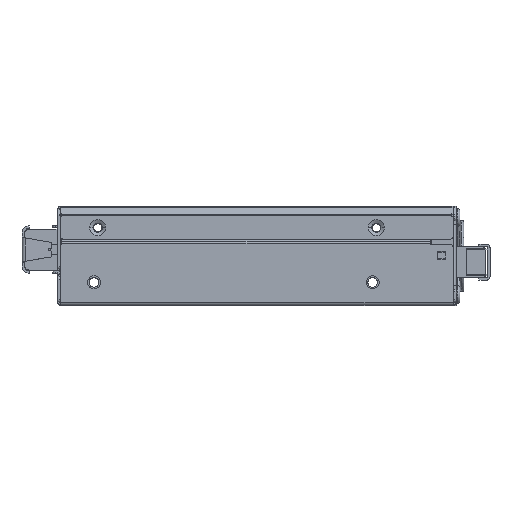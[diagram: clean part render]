
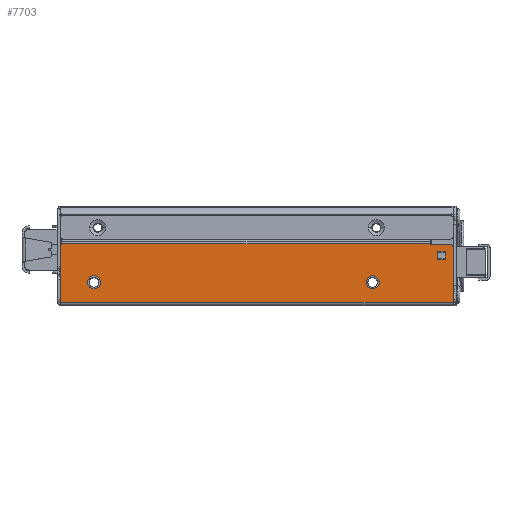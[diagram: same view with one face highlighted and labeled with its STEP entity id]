
A CAD part, top view. The second image highlights one B-rep face of the part: STEP entity #7703.
In plain terms, the highlighted planar face has unit normal (0, 0, 1).
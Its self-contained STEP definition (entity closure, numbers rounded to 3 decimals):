
#1272=DIRECTION('',(0.,1.,0.));
#1273=VECTOR('',#1272,17.703);
#1274=CARTESIAN_POINT('',(80.85,5.3,42.6));
#1275=LINE('',#1274,#1273);
#1284=CARTESIAN_POINT('',(79.85,23.003,42.6));
#1285=DIRECTION('',(0.,0.,-1.));
#1286=DIRECTION('',(0.,1.,0.));
#1287=AXIS2_PLACEMENT_3D('',#1284,#1285,#1286);
#1289=DIRECTION('',(0.,-1.,0.));
#1290=VECTOR('',#1289,5.3);
#1291=CARTESIAN_POINT('',(80.85,5.3,42.6));
#1292=LINE('',#1291,#1290);
#1293=DIRECTION('',(0.,1.,0.));
#1294=VECTOR('',#1293,10.6);
#1295=CARTESIAN_POINT('',(-82.05,0.,42.6));
#1296=LINE('',#1295,#1294);
#1297=DIRECTION('',(0.,1.,0.));
#1298=VECTOR('',#1297,10.803);
#1299=CARTESIAN_POINT('',(-82.05,13.2,42.6));
#1300=LINE('',#1299,#1298);
#1301=DIRECTION('',(1.,0.,0.));
#1302=VECTOR('',#1301,8.5);
#1303=CARTESIAN_POINT('',(71.35,24.003,42.6));
#1304=LINE('',#1303,#1302);
#1305=CARTESIAN_POINT('',(-68.15,8.3,42.6));
#1306=DIRECTION('',(0.,0.,1.));
#1307=DIRECTION('',(0.,1.,0.));
#1308=AXIS2_PLACEMENT_3D('',#1305,#1306,#1307);
#1310=CARTESIAN_POINT('',(-68.15,8.3,42.6));
#1311=DIRECTION('',(0.,0.,1.));
#1312=DIRECTION('',(0.,-1.,0.));
#1313=AXIS2_PLACEMENT_3D('',#1310,#1311,#1312);
#1315=CARTESIAN_POINT('',(47.45,8.3,42.6));
#1316=DIRECTION('',(0.,0.,1.));
#1317=DIRECTION('',(0.,1.,0.));
#1318=AXIS2_PLACEMENT_3D('',#1315,#1316,#1317);
#1320=CARTESIAN_POINT('',(47.45,8.3,42.6));
#1321=DIRECTION('',(0.,0.,1.));
#1322=DIRECTION('',(0.,-1.,0.));
#1323=AXIS2_PLACEMENT_3D('',#1320,#1321,#1322);
#1325=DIRECTION('',(0.,-1.,0.));
#1326=VECTOR('',#1325,3.3);
#1327=CARTESIAN_POINT('',(74.35,21.15,42.6));
#1328=LINE('',#1327,#1326);
#1329=DIRECTION('',(1.,0.,0.));
#1330=VECTOR('',#1329,3.3);
#1331=CARTESIAN_POINT('',(74.35,17.85,42.6));
#1332=LINE('',#1331,#1330);
#1333=DIRECTION('',(0.,1.,0.));
#1334=VECTOR('',#1333,3.3);
#1335=CARTESIAN_POINT('',(77.65,17.85,42.6));
#1336=LINE('',#1335,#1334);
#1337=DIRECTION('',(-1.,0.,0.));
#1338=VECTOR('',#1337,3.3);
#1339=CARTESIAN_POINT('',(77.65,21.15,42.6));
#1340=LINE('',#1339,#1338);
#1341=DIRECTION('',(1.,0.,0.));
#1342=VECTOR('',#1341,162.9);
#1343=CARTESIAN_POINT('',(-82.05,0.,42.6));
#1344=LINE('',#1343,#1342);
#4155=DIRECTION('',(0.,-1.,0.));
#4156=VECTOR('',#4155,2.6);
#4157=CARTESIAN_POINT('',(-82.05,13.2,42.6));
#4158=LINE('',#4157,#4156);
#4171=DIRECTION('',(-1.,0.,0.));
#4172=VECTOR('',#4171,0.5);
#4173=CARTESIAN_POINT('',(-81.55,24.003,42.6));
#4174=LINE('',#4173,#4172);
#4179=DIRECTION('',(0.,-1.,0.));
#4180=VECTOR('',#4179,0.3);
#4181=CARTESIAN_POINT('',(-81.55,24.303,42.6));
#4182=LINE('',#4181,#4180);
#4221=DIRECTION('',(0.,1.,0.));
#4222=VECTOR('',#4221,0.3);
#4223=CARTESIAN_POINT('',(71.35,24.003,42.6));
#4224=LINE('',#4223,#4222);
#4237=DIRECTION('',(-1.,0.,0.));
#4238=VECTOR('',#4237,152.9);
#4239=CARTESIAN_POINT('',(71.35,24.303,42.6));
#4240=LINE('',#4239,#4238);
#5343=CARTESIAN_POINT('',(-82.05,0.,42.6));
#5344=VERTEX_POINT('',#5343);
#5347=CARTESIAN_POINT('',(-82.05,10.6,42.6));
#5348=VERTEX_POINT('',#5347);
#5383=CARTESIAN_POINT('',(47.45,5.6,42.6));
#5384=VERTEX_POINT('',#5383);
#5385=CARTESIAN_POINT('',(47.45,11.,42.6));
#5386=VERTEX_POINT('',#5385);
#5387=CARTESIAN_POINT('',(79.85,24.003,42.6));
#5388=CARTESIAN_POINT('',(80.85,23.003,42.6));
#5389=VERTEX_POINT('',#5387);
#5390=VERTEX_POINT('',#5388);
#5391=CARTESIAN_POINT('',(80.85,5.3,42.6));
#5392=VERTEX_POINT('',#5391);
#5393=CARTESIAN_POINT('',(80.85,0.,42.6));
#5394=VERTEX_POINT('',#5393);
#5395=CARTESIAN_POINT('',(-82.05,13.2,42.6));
#5396=VERTEX_POINT('',#5395);
#5397=CARTESIAN_POINT('',(-82.05,24.003,42.6));
#5398=VERTEX_POINT('',#5397);
#5399=CARTESIAN_POINT('',(-81.55,24.003,42.6));
#5400=VERTEX_POINT('',#5399);
#5401=CARTESIAN_POINT('',(-81.55,24.303,42.6));
#5402=VERTEX_POINT('',#5401);
#5403=CARTESIAN_POINT('',(71.35,24.303,42.6));
#5404=VERTEX_POINT('',#5403);
#5405=CARTESIAN_POINT('',(71.35,24.003,42.6));
#5406=VERTEX_POINT('',#5405);
#5407=CARTESIAN_POINT('',(-68.15,11.,42.6));
#5408=CARTESIAN_POINT('',(-68.15,5.6,42.6));
#5409=VERTEX_POINT('',#5407);
#5410=VERTEX_POINT('',#5408);
#5411=CARTESIAN_POINT('',(74.35,21.15,42.6));
#5412=CARTESIAN_POINT('',(74.35,17.85,42.6));
#5413=VERTEX_POINT('',#5411);
#5414=VERTEX_POINT('',#5412);
#5415=CARTESIAN_POINT('',(77.65,17.85,42.6));
#5416=VERTEX_POINT('',#5415);
#5417=CARTESIAN_POINT('',(77.65,21.15,42.6));
#5418=VERTEX_POINT('',#5417);
#7654=CARTESIAN_POINT('',(80.85,-1.2,42.6));
#7655=DIRECTION('',(0.,0.,1.));
#7656=DIRECTION('',(1.,0.,0.));
#7657=AXIS2_PLACEMENT_3D('',#7654,#7655,#7656);
#7658=PLANE('',#7657);
#7659=ORIENTED_EDGE('',*,*,#7647,.T.);
#7660=ORIENTED_EDGE('',*,*,#7635,.F.);
#7661=ORIENTED_EDGE('',*,*,#7621,.T.);
#7663=ORIENTED_EDGE('',*,*,#7662,.F.);
#7664=ORIENTED_EDGE('',*,*,#7554,.T.);
#7666=ORIENTED_EDGE('',*,*,#7665,.F.);
#7668=ORIENTED_EDGE('',*,*,#7667,.T.);
#7670=ORIENTED_EDGE('',*,*,#7669,.F.);
#7672=ORIENTED_EDGE('',*,*,#7671,.F.);
#7674=ORIENTED_EDGE('',*,*,#7673,.F.);
#7676=ORIENTED_EDGE('',*,*,#7675,.F.);
#7678=ORIENTED_EDGE('',*,*,#7677,.T.);
#7679=EDGE_LOOP('',(#7659,#7660,#7661,#7663,#7664,#7666,#7668,#7670,#7672,#7674,
#7676,#7678));
#7680=FACE_OUTER_BOUND('',#7679,.F.);
#7682=ORIENTED_EDGE('',*,*,#7681,.T.);
#7684=ORIENTED_EDGE('',*,*,#7683,.T.);
#7685=EDGE_LOOP('',(#7682,#7684));
#7686=FACE_BOUND('',#7685,.F.);
#7688=ORIENTED_EDGE('',*,*,#7687,.T.);
#7690=ORIENTED_EDGE('',*,*,#7689,.T.);
#7691=EDGE_LOOP('',(#7688,#7690));
#7692=FACE_BOUND('',#7691,.F.);
#7694=ORIENTED_EDGE('',*,*,#7693,.T.);
#7696=ORIENTED_EDGE('',*,*,#7695,.T.);
#7698=ORIENTED_EDGE('',*,*,#7697,.T.);
#7700=ORIENTED_EDGE('',*,*,#7699,.T.);
#7701=EDGE_LOOP('',(#7694,#7696,#7698,#7700));
#7702=FACE_BOUND('',#7701,.F.);
#1288=CIRCLE('',#1287,1.);
#1309=CIRCLE('',#1308,2.7);
#1314=CIRCLE('',#1313,2.7);
#1319=CIRCLE('',#1318,2.7);
#1324=CIRCLE('',#1323,2.7);
#7554=EDGE_CURVE('',#5344,#5348,#1296,.T.);
#7621=EDGE_CURVE('',#5392,#5394,#1292,.T.);
#7635=EDGE_CURVE('',#5392,#5390,#1275,.T.);
#7647=EDGE_CURVE('',#5389,#5390,#1288,.T.);
#7662=EDGE_CURVE('',#5344,#5394,#1344,.T.);
#7665=EDGE_CURVE('',#5396,#5348,#4158,.T.);
#7667=EDGE_CURVE('',#5396,#5398,#1300,.T.);
#7669=EDGE_CURVE('',#5400,#5398,#4174,.T.);
#7671=EDGE_CURVE('',#5402,#5400,#4182,.T.);
#7673=EDGE_CURVE('',#5404,#5402,#4240,.T.);
#7675=EDGE_CURVE('',#5406,#5404,#4224,.T.);
#7677=EDGE_CURVE('',#5406,#5389,#1304,.T.);
#7681=EDGE_CURVE('',#5409,#5410,#1309,.T.);
#7683=EDGE_CURVE('',#5410,#5409,#1314,.T.);
#7687=EDGE_CURVE('',#5386,#5384,#1319,.T.);
#7689=EDGE_CURVE('',#5384,#5386,#1324,.T.);
#7693=EDGE_CURVE('',#5413,#5414,#1328,.T.);
#7695=EDGE_CURVE('',#5414,#5416,#1332,.T.);
#7697=EDGE_CURVE('',#5416,#5418,#1336,.T.);
#7699=EDGE_CURVE('',#5418,#5413,#1340,.T.);
#7703=ADVANCED_FACE('',(#7680,#7686,#7692,#7702),#7658,.T.);
